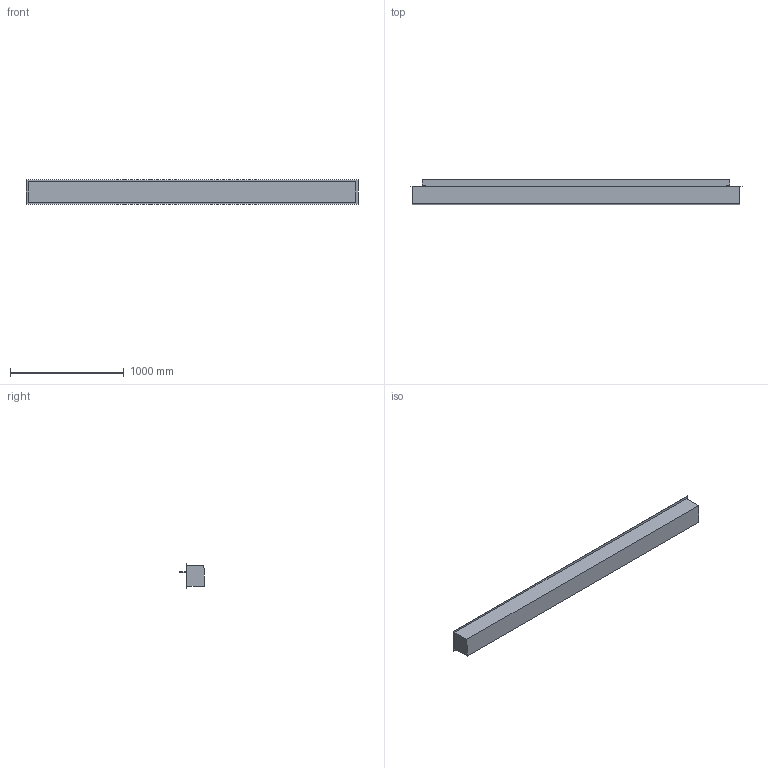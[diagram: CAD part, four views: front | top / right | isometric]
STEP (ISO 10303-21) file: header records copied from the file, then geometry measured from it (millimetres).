
FILE_DESCRIPTION (( 'STEP AP203' ), '1' );
FILE_NAME ('Denver F6 2920.STEP', '2024-03-13T09:24:28', ( '' ), ( '' ), 'SwSTEP 2.0', 'SolidWorks 2023', '' );
FILE_SCHEMA (( 'CONFIG_CONTROL_DESIGN' ));
Length unit declared in the file: millimetre
Products named in the file (1): Denver F6 2920
Bounding box: 2920 x 220 x 215 mm (x, y, z)
Volume: 82186819 mm3; surface area: 3684956.5 mm2
Topology: 8 solids, 8 shells, 68 faces, 156 edges, 104 vertices
Faces by surface type: plane 68
Entity records: 1955 total; most frequent: CARTESIAN_POINT 329, ORIENTED_EDGE 312, DIRECTION 294, VECTOR 156, LINE 156, EDGE_CURVE 156, VERTEX_POINT 104, EDGE_LOOP 74
